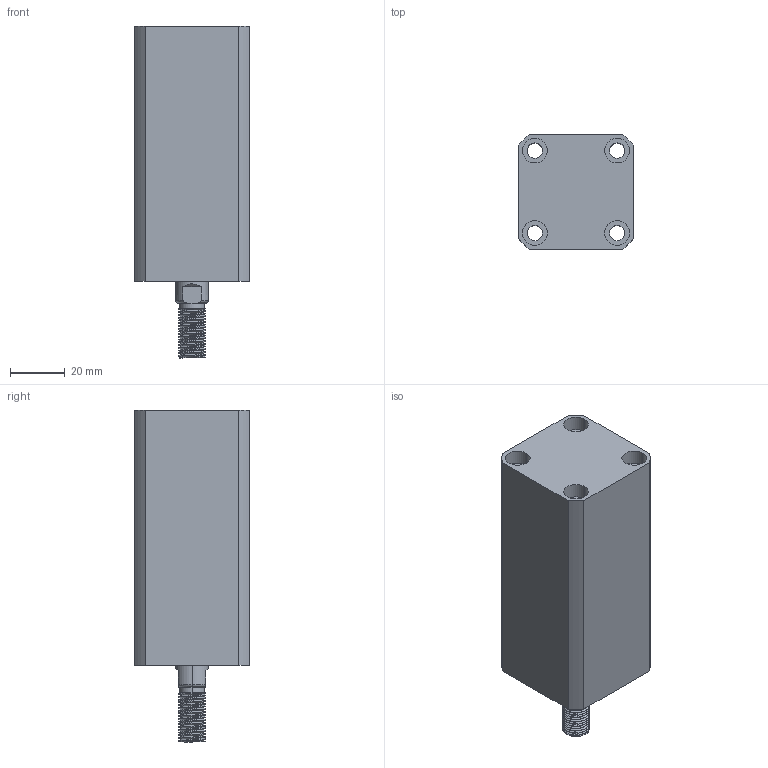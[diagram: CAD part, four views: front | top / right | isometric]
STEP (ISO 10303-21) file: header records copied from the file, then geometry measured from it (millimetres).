
FILE_DESCRIPTION (( 'STEP AP214' ), '1' );
FILE_NAME ('chtb-sd20x50w_asm.STEP', '2018-05-16T09:43:08', ( 'Windows' ), ( 'Microsoft' ), 'SwSTEP 2.0', 'SolidWorks 2015', '' );
FILE_SCHEMA (( 'AUTOMOTIVE_DESIGN' ));
Length unit declared in the file: millimetre
Products named in the file (4): CHTB-SD20X50WHSG; CHTB-SD20X50NBT; chtb-sd20x50w_asm; QG
Assembly tree (3 placements, depth 2):
  chtb-sd20x50w_asm
    CHTB-SD20X50NBT
    CHTB-SD20X50WHSG
    QG
Bounding box: 42 x 42 x 121 mm (x, y, z)
Volume: 139671.4 mm3; surface area: 41760.4 mm2
Topology: 3 solids, 3 shells, 234 faces, 624 edges, 415 vertices
Faces by surface type: cylinder 139, plane 40, torus 25, bspline 21, cone 9
Entity records: 13734 total; most frequent: CARTESIAN_POINT 8172, ORIENTED_EDGE 1240, DIRECTION 1039, EDGE_CURVE 620, AXIS2_PLACEMENT_3D 431, VERTEX_POINT 415, EDGE_LOOP 271, FACE_OUTER_BOUND 234
